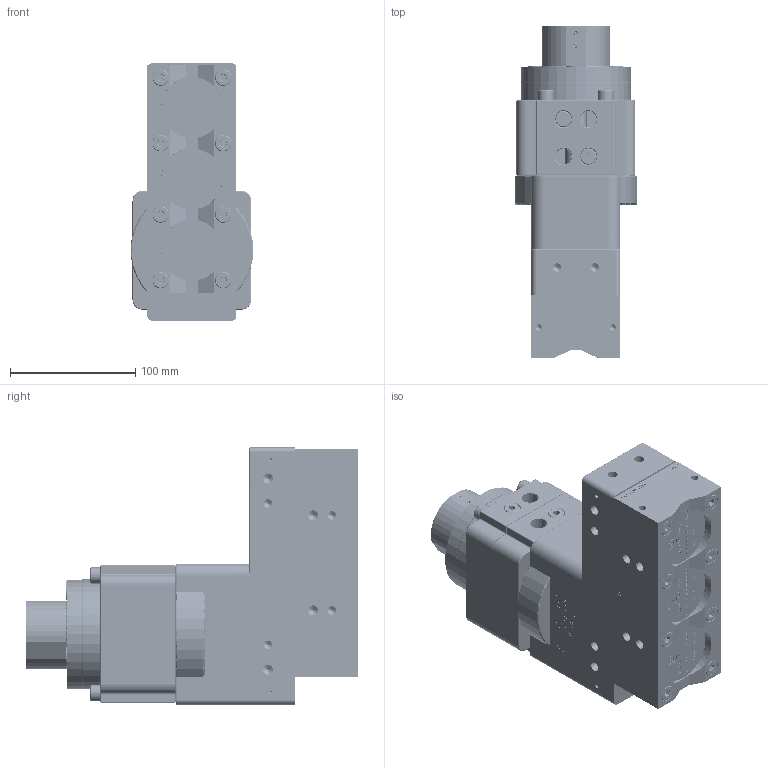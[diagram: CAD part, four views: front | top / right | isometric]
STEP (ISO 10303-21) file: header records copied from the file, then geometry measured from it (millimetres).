
FILE_DESCRIPTION (( 'STEP AP203' ), '1' );
FILE_NAME ('81401738_CFM.STEP', '2026-02-20T16:58:38', ( '' ), ( '' ), 'SwSTEP 2.0', 'SolidWorks 2024', '' );
FILE_SCHEMA (( 'CONFIG_CONTROL_DESIGN' ));
Products named in the file (1): 81401738_CFM
Bounding box: 98.07 x 265.32 x 205.91 mm (x, y, z)
Volume: 2367799.5 mm3; surface area: 384001.2 mm2
Topology: 47 solids, 47 shells, 6285 faces, 16511 edges, 10738 vertices
Faces by surface type: plane 2443, bspline 1713, cylinder 1628, cone 424, torus 67, sphere 10
Entity records: 300316 total; most frequent: CARTESIAN_POINT 162408, ORIENTED_EDGE 32788, DIRECTION 21713, EDGE_CURVE 16394, VERTEX_POINT 10735, LINE 8967, VECTOR 8967, EDGE_LOOP 6919
